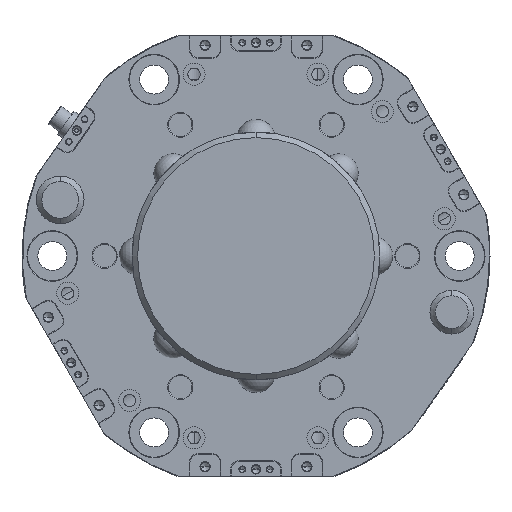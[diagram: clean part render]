
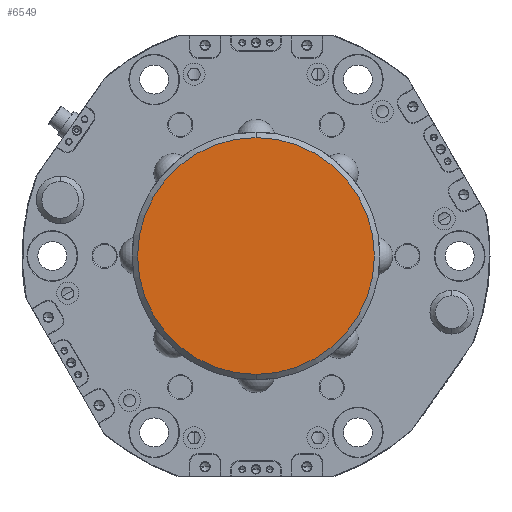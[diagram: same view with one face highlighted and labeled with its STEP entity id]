
A CAD part, front view. The second image highlights one B-rep face of the part: STEP entity #6549.
In plain terms, the highlighted planar face has unit normal (0, -1, 0).
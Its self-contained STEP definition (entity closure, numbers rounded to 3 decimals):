
#526 = VERTEX_POINT ( 'NONE', #9785 ) ;
#1213 = EDGE_LOOP ( 'NONE', ( #16248, #16605 ) ) ;
#2492 = EDGE_CURVE ( 'NONE', #9094, #526, #20002, .T. ) ;
#3054 = DIRECTION ( 'NONE',  ( 0., -1., 0. ) ) ;
#5844 = CARTESIAN_POINT ( 'NONE',  ( 0., 30.18, 0. ) ) ;
#6549 = ADVANCED_FACE ( 'NONE', ( #15714 ), #18592, .T. ) ;
#6894 = CARTESIAN_POINT ( 'NONE',  ( 0., 30.18, 0. ) ) ;
#8227 = AXIS2_PLACEMENT_3D ( 'NONE', #6894, #3054, #12676 ) ;
#9094 = VERTEX_POINT ( 'NONE', #16075 ) ;
#9785 = CARTESIAN_POINT ( 'NONE',  ( 0., 30.18, -43. ) ) ;
#11384 = DIRECTION ( 'NONE',  ( 0., -1., 0. ) ) ;
#11907 = EDGE_CURVE ( 'NONE', #526, #9094, #19917, .T. ) ;
#12676 = DIRECTION ( 'NONE',  ( 0., 0., -1. ) ) ;
#14374 = AXIS2_PLACEMENT_3D ( 'NONE', #5844, #11384, #18977 ) ;
#14470 = CARTESIAN_POINT ( 'NONE',  ( 0., 30.18, 0. ) ) ;
#15047 = DIRECTION ( 'NONE',  ( 0., 0., -1. ) ) ;
#15714 = FACE_OUTER_BOUND ( 'NONE', #1213, .T. ) ;
#16075 = CARTESIAN_POINT ( 'NONE',  ( 0., 30.18, 43. ) ) ;
#16248 = ORIENTED_EDGE ( 'NONE', *, *, #2492, .T. ) ;
#16605 = ORIENTED_EDGE ( 'NONE', *, *, #11907, .T. ) ;
#16832 = DIRECTION ( 'NONE',  ( 0., -1., 0. ) ) ;
#18592 = PLANE ( 'NONE',  #8227 ) ;
#18977 = DIRECTION ( 'NONE',  ( 0., 0., -1. ) ) ;
#19476 = AXIS2_PLACEMENT_3D ( 'NONE', #14470, #16832, #15047 ) ;
#19917 = CIRCLE ( 'NONE', #19476, 43. ) ;
#20002 = CIRCLE ( 'NONE', #14374, 43. ) ;
